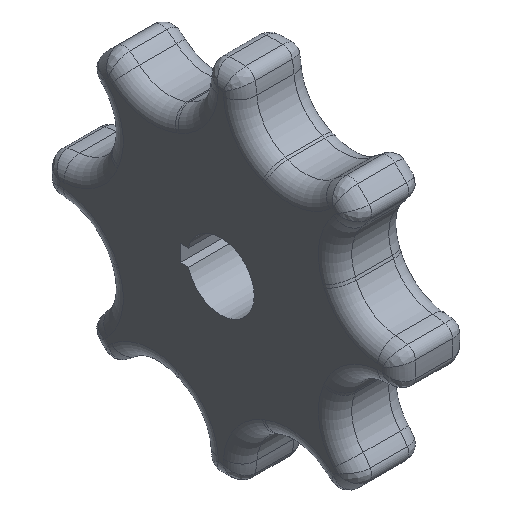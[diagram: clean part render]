
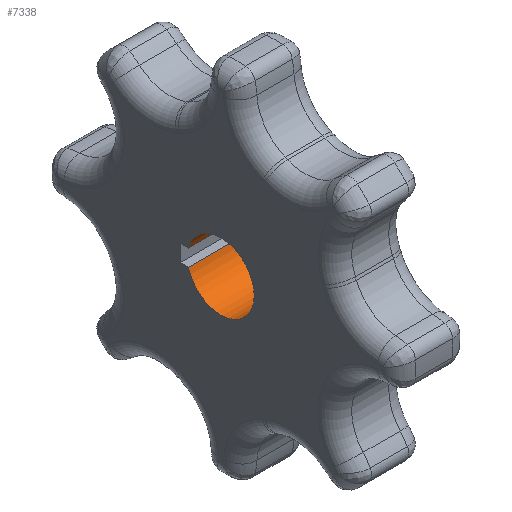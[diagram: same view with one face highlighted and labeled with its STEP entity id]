
A CAD part, isometric view. The second image highlights one B-rep face of the part: STEP entity #7338.
In plain terms, the highlighted cylindrical face has radius 12.7 mm (diameter 25.4 mm), a partial arc.
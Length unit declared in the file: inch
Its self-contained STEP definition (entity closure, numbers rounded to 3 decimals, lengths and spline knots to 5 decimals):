
#5=CARTESIAN_POINT('',(-0.5275,0.,0.));
#6=DIRECTION('',(1.,0.,0.));
#7=DIRECTION('',(0.,0.968,0.25));
#8=AXIS2_PLACEMENT_3D('',#5,#6,#7);
#191=CARTESIAN_POINT('',(0.5275,0.,0.));
#192=DIRECTION('',(1.,0.,0.));
#193=DIRECTION('',(0.,0.968,0.25));
#194=AXIS2_PLACEMENT_3D('',#191,#192,#193);
#2467=DIRECTION('',(-1.,0.,0.));
#2468=VECTOR('',#2467,1.055);
#2469=CARTESIAN_POINT('',(0.5275,0.48412,-0.125));
#2470=LINE('',#2469,#2468);
#2479=DIRECTION('',(-1.,0.,0.));
#2480=VECTOR('',#2479,1.055);
#2481=CARTESIAN_POINT('',(0.5275,0.48412,0.125));
#2482=LINE('',#2481,#2480);
#2483=CARTESIAN_POINT('',(-0.5275,0.48412,-0.125));
#2485=VERTEX_POINT('',#2483);
#2489=CARTESIAN_POINT('',(-0.5275,0.48412,0.125));
#2490=VERTEX_POINT('',#2489);
#2491=CARTESIAN_POINT('',(0.5275,0.48412,-0.125));
#2493=VERTEX_POINT('',#2491);
#2497=CARTESIAN_POINT('',(0.5275,0.48412,0.125));
#2498=VERTEX_POINT('',#2497);
#7327=CARTESIAN_POINT('',(0.642,0.,0.));
#7328=DIRECTION('',(1.,0.,0.));
#7329=DIRECTION('',(0.,0.,-1.));
#7330=AXIS2_PLACEMENT_3D('',#7327,#7328,#7329);
#7331=CYLINDRICAL_SURFACE('',#7330,0.5);
#7332=ORIENTED_EDGE('',*,*,#7296,.F.);
#7333=ORIENTED_EDGE('',*,*,#3404,.F.);
#7334=ORIENTED_EDGE('',*,*,#7320,.T.);
#7335=ORIENTED_EDGE('',*,*,#3036,.T.);
#7336=EDGE_LOOP('',(#7332,#7333,#7334,#7335));
#7337=FACE_OUTER_BOUND('',#7336,.F.);
#7338=ADVANCED_FACE('',(#7337),#7331,.F.);
#9=CIRCLE('',#8,0.5);
#195=CIRCLE('',#194,0.5);
#3036=EDGE_CURVE('',#2490,#2485,#9,.T.);
#3404=EDGE_CURVE('',#2498,#2493,#195,.T.);
#7296=EDGE_CURVE('',#2493,#2485,#2470,.T.);
#7320=EDGE_CURVE('',#2498,#2490,#2482,.T.);
